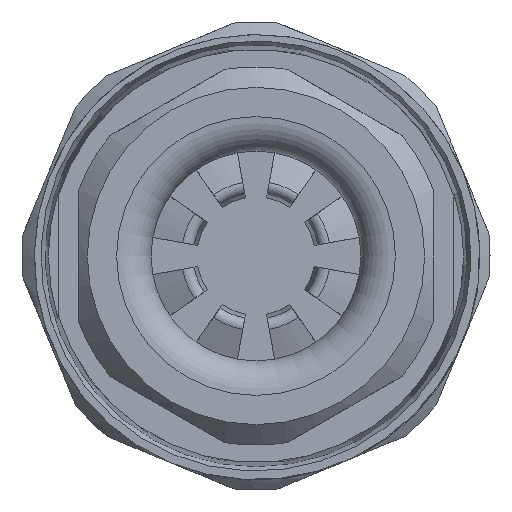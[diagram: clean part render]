
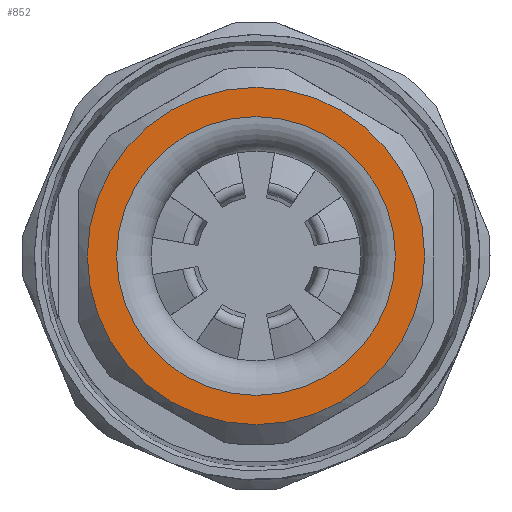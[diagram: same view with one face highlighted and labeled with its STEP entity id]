
A CAD part, left-side view. The second image highlights one B-rep face of the part: STEP entity #852.
In plain terms, the highlighted planar face has unit normal (-1, 0, 0).
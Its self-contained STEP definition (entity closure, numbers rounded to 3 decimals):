
#852=ADVANCED_FACE('',(#1707,#1708),#1024,.F.);
#1024=PLANE('',#5503);
#1707=FACE_BOUND('',#2000,.T.);
#1708=FACE_BOUND('',#2001,.T.);
#2000=EDGE_LOOP('',(#3033));
#2001=EDGE_LOOP('',(#3034));
#3033=ORIENTED_EDGE('',*,*,#4477,.T.);
#3034=ORIENTED_EDGE('',*,*,#4463,.T.);
#3849=VERTEX_POINT('',#10591);
#3863=VERTEX_POINT('',#10650);
#4463=EDGE_CURVE('',#3849,#3849,#4961,.T.);
#4477=EDGE_CURVE('',#3863,#3863,#4969,.T.);
#4961=CIRCLE('',#5463,9.8);
#4969=CIRCLE('',#5472,8.1);
#5463=AXIS2_PLACEMENT_3D('',#10590,#6594,#6595);
#5472=AXIS2_PLACEMENT_3D('',#10649,#6612,#6613);
#5503=AXIS2_PLACEMENT_3D('',#10740,#6702,#6703);
#6594=DIRECTION('',(-1.,0.,0.));
#6595=DIRECTION('',(0.,-1.,0.));
#6612=DIRECTION('',(1.,0.,0.));
#6613=DIRECTION('',(0.,1.,0.));
#6702=DIRECTION('',(1.,0.,0.));
#6703=DIRECTION('',(0.,-1.,0.));
#10590=CARTESIAN_POINT('',(-17.386,-2.448,-2.225));
#10591=CARTESIAN_POINT('',(-17.386,-12.248,-2.225));
#10649=CARTESIAN_POINT('',(-17.386,-2.448,-2.225));
#10650=CARTESIAN_POINT('',(-17.386,5.652,-2.225));
#10740=CARTESIAN_POINT('',(-17.386,-2.448,-2.225));
